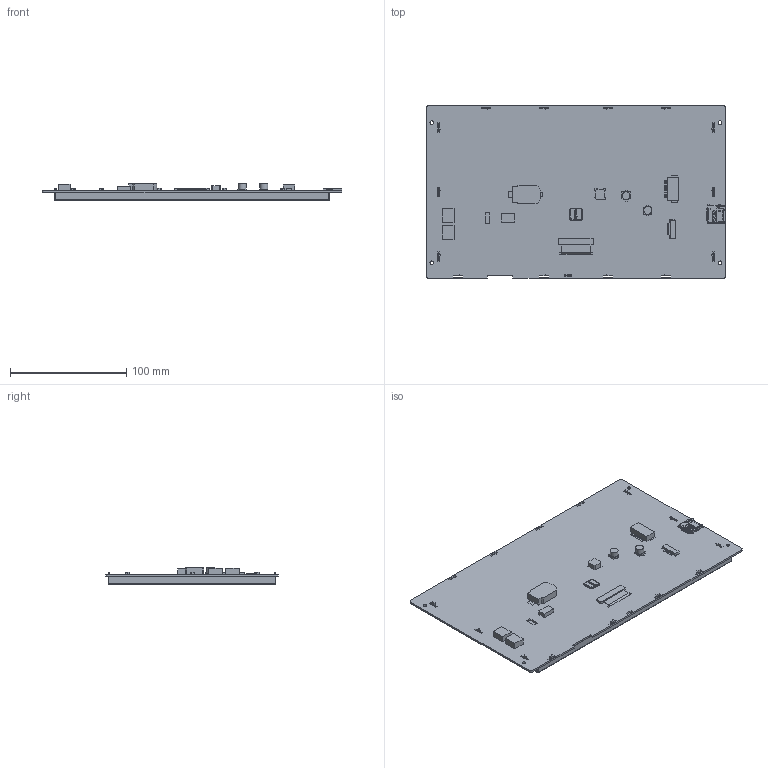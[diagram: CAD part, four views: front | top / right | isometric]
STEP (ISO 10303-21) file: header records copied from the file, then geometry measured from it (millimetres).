
FILE_DESCRIPTION(/* description */ (''),/* implementation_level */ '2;1');
FILE_NAME(/* name */ '',/* time_stamp */ '2021-07-24T15:15:42+08:00',/* author */ (''),/* organization */ (''),/* preprocessor_version */ 'ST-DEVELOPER v11',/* originating_system */ 'SIEMENS PLM Software NX 7.5',/* authorisation */ '');
FILE_SCHEMA (('AP203_CONFIGURATION_CONTROLLED_3D_DESIGN_OF_MECHANICAL_PARTS_AND_ASSEMBLIES_MIM_LF'));
Products named in the file (1): SDWb101T84N
Bounding box: 257.8 x 148.1 x 14.11 mm (x, y, z)
Volume: 73692.6 mm3; surface area: 163609.3 mm2
Topology: 20 solids, 20 shells, 2483 faces, 7389 edges, 5159 vertices
Faces by surface type: plane 2014, cylinder 461, bspline 7, cone 1
Full cylindrical faces by diameter (mm): 3.2 x4, 6.776 x2
Entity records: 85246 total; most frequent: CARTESIAN_POINT 15366, ORIENTED_EDGE 14264, DIRECTION 13154, EDGE_CURVE 7132, LINE 6384, VECTOR 6384, VERTEX_POINT 4684, AXIS2_PLACEMENT_3D 3385
